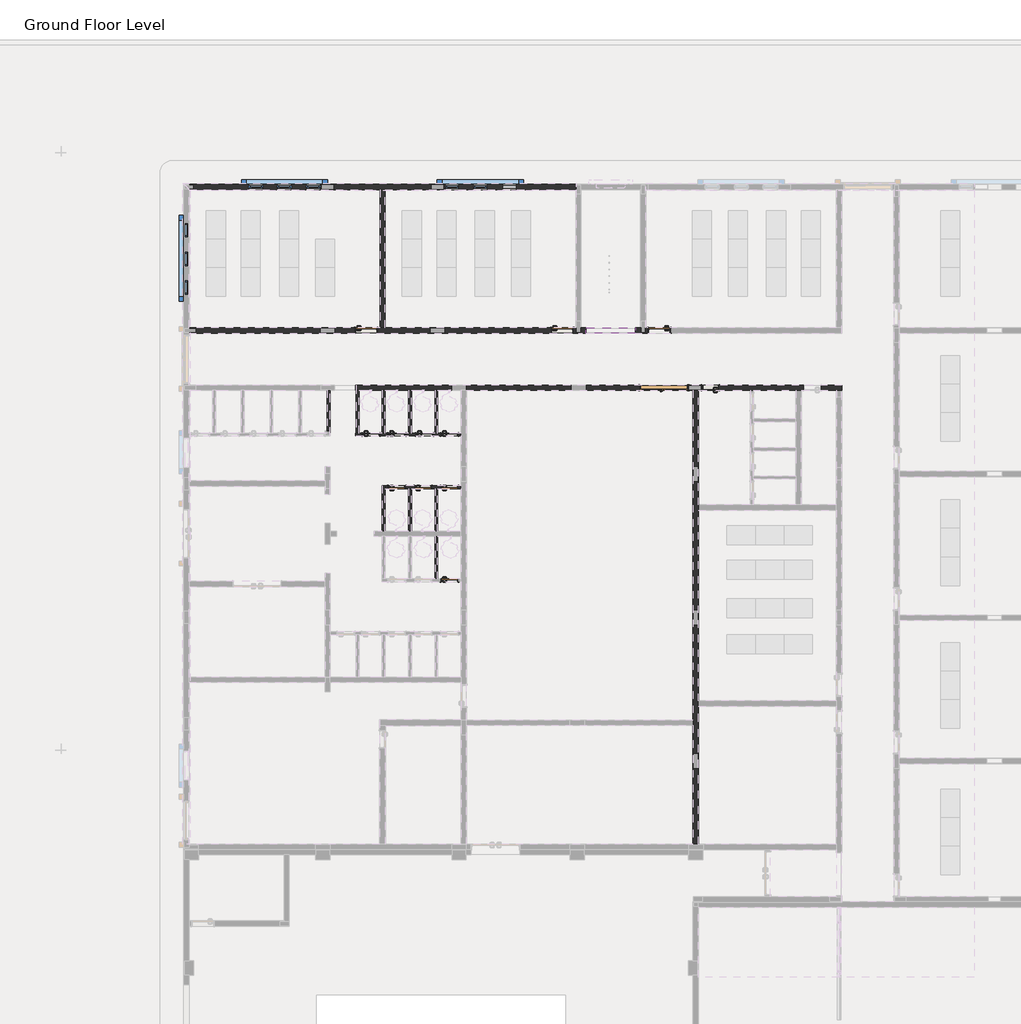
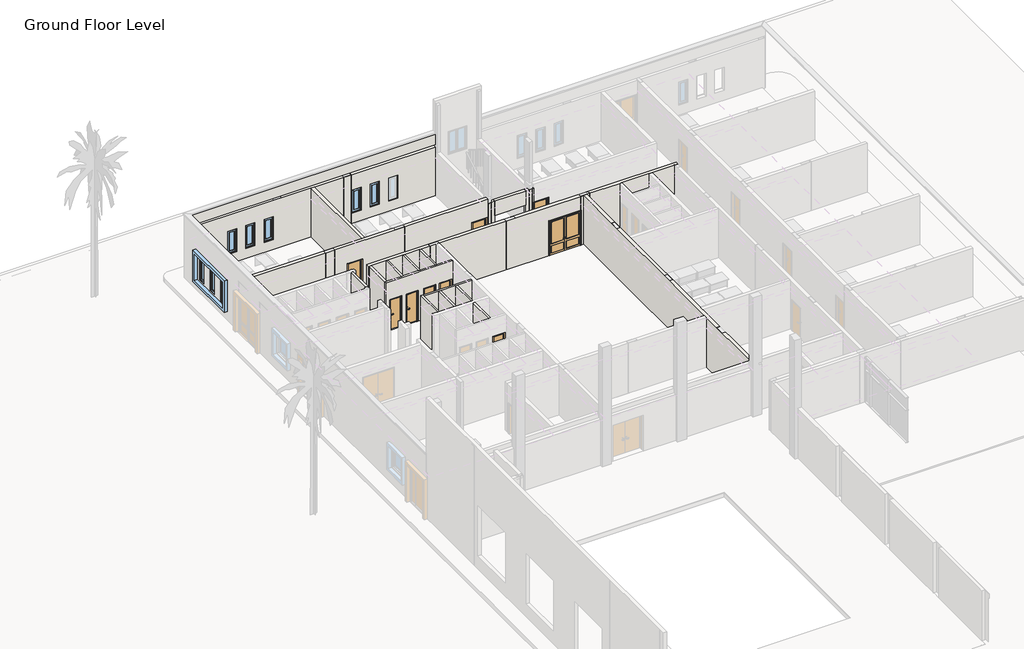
# One storey, part 8 of 23: 19 walls, 13 doors, 11 windows.
"""IFC4 building model written with IfcOpenShell, lengths in millimetres."""

from ifc_helpers import new_model, si_unit, frame, origin, place, context, project, spatial, polyline, outline, extrude, faceted_brep, transform, mapped, element, save
from components import ext_double_out_timber_2lite_nz_2000x_2500_b5d1efe6, int_single_flush_nz_700x_2100_d6161bae, int_single_flush_nz_700x_2100_f912e773, int_single_flush_nz_700x_2100_e1d28701, int_single_flush_nz_900_x_2100_021ef152, int_single_flush_nz_900_x_2100_2a598139, window_batten_type_1_9c5b8c0b, window_batten_type_1_cf321a79, window_batten_type_1_75926c5e, window_single_shutter_w3_b236610e

model = new_model("IFC4")

# Units and contexts
model_context = context("Model", 3, world=origin())
ifc_project = project(units=[si_unit("LENGTHUNIT", "METRE", prefix="MILLI")], contexts=[model_context])

# Site, building, storey
site = spatial("IfcSite", under=ifc_project)
building = spatial("IfcBuilding", under=site)
storey = spatial("IfcBuildingStorey", under=building, Name="Ground Floor Level", Elevation=900.0)

# Doors
placement = place(None, origin())
ext_double_out_timber_2lite_nz_2000x_2500_shape = ext_double_out_timber_2lite_nz_2000x_2500_b5d1efe6(model_context)
element("IfcDoor", 1, ObjectType="Ext Double Out-Timber-2Lite (NZ) : 2000x 2500", at=placement, inside=storey, context=model_context, shape_type="MappedRepresentation", body=[
    mapped(ext_double_out_timber_2lite_nz_2000x_2500_shape, transform((-2125.2327605, 13142.4858361, 900.0), x_axis=(-1.0, 0.0, 0.0), y_axis=(0.0, -1.0, 0.0), z_axis=(0.0, 0.0, 1.0))),
])
int_single_flush_nz_700x_2100_shape = int_single_flush_nz_700x_2100_d6161bae(model_context)
element("IfcDoor", 2, ObjectType="Int Single-Flush (NZ) : 700x 2100", at=placement, inside=storey, context=model_context, shape_type="MappedRepresentation", body=[
    mapped(int_single_flush_nz_700x_2100_shape, transform((-14151.2327605, 11195.2153534, 1000.0), x_axis=(1.0, 0.0, 0.0), y_axis=(0.0, 1.0, 0.0), z_axis=(0.0, 0.0, 1.0))),
])
element("IfcDoor", 3, ObjectType="Int Single-Flush (NZ) : 700x 2100", at=placement, inside=storey, context=model_context, shape_type="MappedRepresentation", body=[
    mapped(int_single_flush_nz_700x_2100_shape, transform((-13072.2327605, 11195.2153534, 1000.0), x_axis=(1.0, 0.0, 0.0), y_axis=(0.0, 1.0, 0.0), z_axis=(0.0, 0.0, 1.0))),
])
element("IfcDoor", 4, ObjectType="Int Single-Flush (NZ) : 700x 2100", at=placement, inside=storey, context=model_context, shape_type="MappedRepresentation", body=[
    mapped(int_single_flush_nz_700x_2100_shape, transform((-11911.2327605, 11195.2153534, 1000.0), x_axis=(1.0, 0.0, 0.0), y_axis=(0.0, 1.0, 0.0), z_axis=(0.0, 0.0, 1.0))),
])
element("IfcDoor", 5, ObjectType="Int Single-Flush (NZ) : 700x 2100", at=placement, inside=storey, context=model_context, shape_type="MappedRepresentation", body=[
    mapped(int_single_flush_nz_700x_2100_shape, transform((-10872.2327605, 11195.2153534, 1000.0), x_axis=(1.0, 0.0, 0.0), y_axis=(0.0, 1.0, 0.0), z_axis=(0.0, 0.0, 1.0))),
])
element("IfcDoor", 6, ObjectType="Int Single-Flush (NZ) : 700x 2100", at=placement, inside=storey, context=model_context, shape_type="MappedRepresentation", body=[
    mapped(int_single_flush_nz_700x_2100_shape, transform((-10872.2327605, 5095.2153534, 1000.0), x_axis=(1.0, 0.0, 0.0), y_axis=(0.0, 1.0, 0.0), z_axis=(0.0, 0.0, 1.0))),
])
int_single_flush_nz_700x_2100_2_shape = int_single_flush_nz_700x_2100_f912e773(model_context)
element("IfcDoor", 7, ObjectType="Int Single-Flush (NZ) : 700x 2100", at=placement, inside=storey, context=model_context, shape_type="MappedRepresentation", body=[
    mapped(int_single_flush_nz_700x_2100_2_shape, transform((-113.2327605, 13145.2153534, 1000.0), x_axis=(-1.0, 0.0, 0.0), y_axis=(0.0, -1.0, 0.0), z_axis=(0.0, 0.0, 1.0))),
])
int_single_flush_nz_700x_2100_3_shape = int_single_flush_nz_700x_2100_e1d28701(model_context)
element("IfcDoor", 8, ObjectType="Int Single-Flush (NZ) : 700x 2100", at=placement, inside=storey, context=model_context, shape_type="MappedRepresentation", body=[
    mapped(int_single_flush_nz_700x_2100_3_shape, transform((-13072.2327605, 8995.2153534, 1000.0), x_axis=(1.0, 0.0, 0.0), y_axis=(0.0, 1.0, 0.0), z_axis=(0.0, 0.0, 1.0))),
])
element("IfcDoor", 9, ObjectType="Int Single-Flush (NZ) : 700x 2100", at=placement, inside=storey, context=model_context, shape_type="MappedRepresentation", body=[
    mapped(int_single_flush_nz_700x_2100_3_shape, transform((-11972.2327605, 8995.2153534, 1000.0), x_axis=(1.0, 0.0, 0.0), y_axis=(0.0, 1.0, 0.0), z_axis=(0.0, 0.0, 1.0))),
])
element("IfcDoor", 10, ObjectType="Int Single-Flush (NZ) : 700x 2100", at=placement, inside=storey, context=model_context, shape_type="MappedRepresentation", body=[
    mapped(int_single_flush_nz_700x_2100_3_shape, transform((-10872.2327605, 8995.2153534, 1000.0), x_axis=(1.0, 0.0, 0.0), y_axis=(0.0, 1.0, 0.0), z_axis=(0.0, 0.0, 1.0))),
])
int_single_flush_nz_900_x_2100_shape = int_single_flush_nz_900_x_2100_021ef152(model_context)
element("IfcDoor", 11, ObjectType="Int Single-Flush (NZ) : 900 x 2100", at=placement, inside=storey, context=model_context, shape_type="MappedRepresentation", body=[
    mapped(int_single_flush_nz_900_x_2100_shape, transform((-14351.2327605, 15545.2153534, 1000.0), x_axis=(1.0, 0.0, 0.0), y_axis=(0.0, 1.0, 0.0), z_axis=(0.0, 0.0, 1.0))),
])
element("IfcDoor", 12, ObjectType="Int Single-Flush (NZ) : 900 x 2100", at=placement, inside=storey, context=model_context, shape_type="MappedRepresentation", body=[
    mapped(int_single_flush_nz_900_x_2100_shape, transform((-6151.2327605, 15545.2153534, 1000.0), x_axis=(1.0, 0.0, 0.0), y_axis=(0.0, 1.0, 0.0), z_axis=(0.0, 0.0, 1.0))),
])
int_single_flush_nz_900_x_2100_2_shape = int_single_flush_nz_900_x_2100_2a598139(model_context)
element("IfcDoor", 13, ObjectType="Int Single-Flush (NZ) : 900 x 2100", at=placement, inside=storey, context=model_context, shape_type="MappedRepresentation", body=[
    mapped(int_single_flush_nz_900_x_2100_2_shape, transform((-2243.2327605, 15545.2153534, 1000.0), x_axis=(-1.0, 0.0, 0.0), y_axis=(0.0, -1.0, 0.0), z_axis=(0.0, 0.0, 1.0))),
])

# Walls
element("IfcWall", 14, ObjectType="Exterior - Blockwork 200 Stairs", at=placement, inside=storey, context=model_context, shape_type="Brep", body=[
    faceted_brep([(-5657.2327605, 15435.2153534, 900.0), (-5227.2327605, 15435.2153534, 900.0), (-5227.2327605, 15435.2153534, 3100.0), (-5227.2327605, 15435.2153534, 4100.0), (-5657.2327605, 15435.2153534, 4100.0), (-5657.2327605, 15435.2153534, 1000.0), (-5657.2327605, 15655.2153534, 900.0), (-5657.2327605, 15655.2153534, 1000.0), (-5657.2327605, 15655.2153534, 4100.0), (-5647.2327605, 15655.2153534, 4100.0), (-5647.2327605, 15655.2153534, 1000.0), (-5647.2327605, 15655.2153534, 900.0), (-5447.2327605, 15655.2153534, 4100.0), (-5437.2327605, 15655.2153534, 4100.0), (-5227.2327605, 15655.2153534, 4100.0), (-5227.2327605, 15655.2153534, 3100.0), (-5227.2327605, 15655.2153534, 1000.0), (-5437.2327605, 15655.2153534, 1000.0), (-5447.2327605, 15655.2153534, 1000.0), (-5657.2327605, 15445.2153534, 900.0), (-5657.2327605, 15645.2153534, 900.0), (-5647.2327605, 15445.2153534, 900.0), (-5447.2327605, 15445.2153534, 900.0), (-5447.2327605, 15645.2153534, 900.0), (-5227.2327605, 15645.2153534, 900.0), (-5227.2327605, 15645.2153534, 1000.0), (-5447.2327605, 15445.2153534, 4100.0), (-5647.2327605, 15445.2153534, 4100.0), (-5447.2327605, 15645.2153534, 1000.0)], [[[0, 1, 2, 3, 4, 5]], [[6, 7, 8, 9, 10, 11]], [[12, 13, 14, 15, 16, 17, 18]], [[1, 0, 19, 20, 6, 11, 21, 22, 23, 24]], [[3, 2, 1, 24, 25, 16, 15, 14]], [[4, 3, 14, 13, 12, 26, 27, 9, 8]], [[22, 26, 12, 18, 28, 23]], [[22, 21, 27, 26]], [[11, 10, 9, 27, 21]], [[4, 8, 7, 6, 20, 19, 0, 5]], [[25, 28, 18, 17, 16]], [[28, 25, 24, 23]]]),
])
element("IfcWall", 15, ObjectType="Exterior - Blockwork 200 Stairs", at=placement, inside=storey, context=model_context, shape_type="SweptSolid", body=[
    extrude(outline(polyline([(-3157.2327605, 15435.2153534), (-5227.2327605, 15435.2153534), (-5227.2327605, 15655.2153534), (-3157.2327605, 15655.2153534), (-3157.2327605, 15435.2153534)])), frame((0.0, 0.0, 3100.0), z_axis=(0.0, 0.0, 1.0), x_axis=(1.0, 0.0, 0.0)), (0.0, 0.0, 1.0), 1000.0),
])
element("IfcWall", 16, ObjectType="Exterior - Blockwork 200 Stairs", at=placement, inside=storey, context=model_context, shape_type="Brep", body=[
    faceted_brep([(-3157.2327605, 15435.2153534, 900.0), (-2637.2327605, 15435.2153534, 900.0), (-2637.2327605, 15435.2153534, 1000.0), (-2637.2327605, 15435.2153534, 3119.0), (-2637.2327605, 15435.2153534, 4100.0), (-3157.2327605, 15435.2153534, 4100.0), (-3157.2327605, 15435.2153534, 3100.0), (-2637.2327605, 15655.2153534, 4100.0), (-2637.2327605, 15655.2153534, 3119.0), (-2637.2327605, 15655.2153534, 900.0), (-2737.2327605, 15655.2153534, 900.0), (-2737.2327605, 15655.2153534, 1000.0), (-2747.2327605, 15655.2153534, 1000.0), (-2747.2327605, 15655.2153534, 4100.0), (-2737.2327605, 15655.2153534, 4100.0), (-3157.2327605, 15655.2153534, 4100.0), (-2957.2327605, 15655.2153534, 4100.0), (-2947.2327605, 15655.2153534, 4100.0), (-2947.2327605, 15655.2153534, 1000.0), (-3157.2327605, 15655.2153534, 1000.0), (-3157.2327605, 15655.2153534, 3100.0), (-3157.2327605, 15645.2153534, 900.0), (-2947.2327605, 15645.2153534, 900.0), (-2947.2327605, 15445.2153534, 900.0), (-2747.2327605, 15445.2153534, 900.0), (-2747.2327605, 15645.2153534, 900.0), (-2737.2327605, 15645.2153534, 900.0), (-2637.2327605, 15645.2153534, 900.0), (-2747.2327605, 15445.2153534, 4100.0), (-2947.2327605, 15445.2153534, 4100.0), (-3157.2327605, 15645.2153534, 1000.0), (-2947.2327605, 15645.2153534, 1000.0), (-2747.2327605, 15645.2153534, 1000.0), (-2737.2327605, 15645.2153534, 1000.0)], [[[0, 1, 2, 3, 4, 5, 6]], [[7, 8, 9, 10, 11, 12, 13, 14]], [[15, 16, 17, 18, 19, 20]], [[1, 0, 21, 22, 23, 24, 25, 26, 10, 9, 27]], [[4, 3, 2, 1, 27, 9, 8, 7]], [[5, 4, 7, 14, 13, 28, 29, 17, 16, 15]], [[0, 6, 5, 15, 20, 19, 30, 21]], [[29, 23, 22, 31, 18, 17]], [[24, 28, 13, 12, 32, 25]], [[28, 24, 23, 29]], [[11, 33, 32, 12]], [[31, 30, 19, 18]], [[26, 33, 11, 10]], [[33, 26, 25, 32]], [[30, 31, 22, 21]]]),
])
element("IfcWall", 17, ObjectType="Exterior - Blockwork 200mm", at=placement, inside=storey, context=model_context, shape_type="Brep", body=[
    faceted_brep([(-5657.2327605, 21435.2153534, 5302.8002678), (-21837.2327605, 21435.2153534, 5302.8002678), (-21837.2327605, 21435.2153534, 4550.0), (-5657.2327605, 21435.2153534, 4550.0), (-5657.2327605, 21435.2153534, 4400.0), (-13637.2327605, 21435.2153534, 4400.0), (-13857.2327605, 21435.2153534, 4400.0), (-21837.2327605, 21435.2153534, 4400.0), (-21837.2327605, 21435.2153534, 1000.0), (-13857.2327605, 21435.2153534, 1000.0), (-13847.2327605, 21435.2153534, 1000.0), (-13847.2327605, 21435.2153534, 900.0), (-13647.2327605, 21435.2153534, 900.0), (-13647.2327605, 21435.2153534, 1000.0), (-13637.2327605, 21435.2153534, 1000.0), (-5657.2327605, 21435.2153534, 1000.0), (-19337.2327605, 21435.2153534, 1700.0), (-19337.2327605, 21435.2153534, 3300.0), (-18737.2327605, 21435.2153534, 3300.0), (-18737.2327605, 21435.2153534, 1700.0), (-18157.2327605, 21435.2153534, 1700.0), (-18157.2327605, 21435.2153534, 3300.0), (-17557.2327605, 21435.2153534, 3300.0), (-17557.2327605, 21435.2153534, 1700.0), (-16937.2327605, 21435.2153534, 1700.0), (-16937.2327605, 21435.2153534, 3300.0), (-16337.2327605, 21435.2153534, 3300.0), (-16337.2327605, 21435.2153534, 1700.0), (-11137.2327605, 21435.2153534, 1700.0), (-11137.2327605, 21435.2153534, 3300.0), (-10537.2327605, 21435.2153534, 3300.0), (-10537.2327605, 21435.2153534, 1700.0), (-9957.2327605, 21435.2153534, 1700.0), (-9957.2327605, 21435.2153534, 3300.0), (-9357.2327605, 21435.2153534, 3300.0), (-9357.2327605, 21435.2153534, 1700.0), (-8737.2327605, 21435.2153534, 1700.0), (-8737.2327605, 21435.2153534, 3300.0), (-8137.2327605, 21435.2153534, 3300.0), (-8137.2327605, 21435.2153534, 1700.0), (-5657.2327605, 21655.2153534, 900.0), (-21837.2327605, 21655.2153534, 900.0), (-21837.2327605, 21655.2153534, 5302.8002678), (-5657.2327605, 21655.2153534, 5302.8002678), (-19337.2327605, 21655.2153534, 3300.0), (-19337.2327605, 21655.2153534, 1700.0), (-18737.2327605, 21655.2153534, 1700.0), (-18737.2327605, 21655.2153534, 3300.0), (-18157.2327605, 21655.2153534, 3300.0), (-18157.2327605, 21655.2153534, 1700.0), (-17557.2327605, 21655.2153534, 1700.0), (-17557.2327605, 21655.2153534, 3300.0), (-16937.2327605, 21655.2153534, 3300.0), (-16937.2327605, 21655.2153534, 1700.0), (-16337.2327605, 21655.2153534, 1700.0), (-16337.2327605, 21655.2153534, 3300.0), (-11137.2327605, 21655.2153534, 3300.0), (-11137.2327605, 21655.2153534, 1700.0), (-10537.2327605, 21655.2153534, 1700.0), (-10537.2327605, 21655.2153534, 3300.0), (-9957.2327605, 21655.2153534, 3300.0), (-9957.2327605, 21655.2153534, 1700.0), (-9357.2327605, 21655.2153534, 1700.0), (-9357.2327605, 21655.2153534, 3300.0), (-8737.2327605, 21655.2153534, 3300.0), (-8737.2327605, 21655.2153534, 1700.0), (-8137.2327605, 21655.2153534, 1700.0), (-8137.2327605, 21655.2153534, 3300.0), (-21837.2327605, 21645.2153534, 900.0), (-21837.2327605, 21645.2153534, 4550.0), (-21837.2327605, 21445.2153534, 4400.0), (-21837.2327605, 21445.2153534, 1000.0), (-15797.2327605, 21645.2153534, 900.0), (-15797.2327605, 21645.2153534, 4400.0), (-11697.2327605, 21645.2153534, 4400.0), (-11697.2327605, 21645.2153534, 900.0), (-11197.2327605, 21645.2153534, 900.0), (-11197.2327605, 21645.2153534, 4400.0), (-5657.2327605, 21645.2153534, 4400.0), (-5657.2327605, 21645.2153534, 4550.0), (-21647.2327605, 21645.2153534, 900.0), (-21647.2327605, 21645.2153534, 4400.0), (-16297.2327605, 21645.2153534, 4400.0), (-16297.2327605, 21645.2153534, 900.0), (-15797.2327605, 21445.2153534, 900.0), (-15797.2327605, 21445.2153534, 1000.0), (-15797.2327605, 21445.2153534, 4400.0), (-16297.2327605, 21445.2153534, 4400.0), (-16297.2327605, 21445.2153534, 1000.0), (-16297.2327605, 21445.2153534, 900.0), (-11197.2327605, 21445.2153534, 900.0), (-11197.2327605, 21445.2153534, 1000.0), (-11197.2327605, 21445.2153534, 4400.0), (-11697.2327605, 21445.2153534, 4400.0), (-11697.2327605, 21445.2153534, 1000.0), (-11697.2327605, 21445.2153534, 900.0), (-21647.2327605, 21445.2153534, 900.0), (-21647.2327605, 21445.2153534, 1000.0), (-21647.2327605, 21445.2153534, 4400.0), (-13647.2327605, 21445.2153534, 1000.0), (-5657.2327605, 21445.2153534, 1000.0), (-13647.2327605, 21445.2153534, 900.0), (-5657.2327605, 21445.2153534, 900.0), (-13847.2327605, 21445.2153534, 1000.0), (-13847.2327605, 21445.2153534, 900.0)], [[[0, 1, 2, 3]], [[4, 5, 6, 7, 8, 9, 10, 11, 12, 13, 14, 15], [16, 17, 18, 19], [20, 21, 22, 23], [24, 25, 26, 27], [28, 29, 30, 31], [32, 33, 34, 35], [36, 37, 38, 39]], [[40, 41, 42, 43], [44, 45, 46, 47], [48, 49, 50, 51], [52, 53, 54, 55], [56, 57, 58, 59], [60, 61, 62, 63], [64, 65, 66, 67]], [[42, 41, 68, 69, 2, 1]], [[7, 70, 71, 8]], [[72, 73, 74, 75, 76, 77, 78, 79, 69, 68, 80, 81, 82, 83]], [[73, 72, 84, 85, 86]], [[87, 86, 85, 88]], [[83, 82, 87, 88, 89]], [[77, 76, 90, 91, 92]], [[93, 92, 91, 94]], [[75, 74, 93, 94, 95]], [[81, 80, 96, 97, 98]], [[70, 98, 97, 71]], [[17, 16, 45, 44]], [[18, 17, 44, 47]], [[19, 18, 47, 46]], [[16, 19, 46, 45]], [[21, 20, 49, 48]], [[22, 21, 48, 51]], [[23, 22, 51, 50]], [[20, 23, 50, 49]], [[25, 24, 53, 52]], [[26, 25, 52, 55]], [[27, 26, 55, 54]], [[24, 27, 54, 53]], [[29, 28, 57, 56]], [[30, 29, 56, 59]], [[31, 30, 59, 58]], [[28, 31, 58, 57]], [[33, 32, 61, 60]], [[34, 33, 60, 63]], [[35, 34, 63, 62]], [[32, 35, 62, 61]], [[37, 36, 65, 64]], [[38, 37, 64, 67]], [[39, 38, 67, 66]], [[36, 39, 66, 65]], [[74, 73, 86, 87, 82, 81, 98, 70, 7, 6, 5, 4, 78, 77, 92, 93]], [[69, 79, 3, 2]], [[99, 94, 91, 100, 15, 14, 13]], [[101, 99, 13, 12]], [[99, 101, 95, 94]], [[100, 91, 90, 102]], [[85, 103, 10, 9, 8, 71, 97, 88]], [[103, 104, 11, 10]], [[104, 103, 85, 84]], [[88, 97, 96, 89]], [[41, 40, 102, 90, 76, 75, 95, 101, 12, 11, 104, 84, 72, 83, 89, 96, 80, 68]], [[40, 43, 0, 3, 79, 78, 4, 15, 100, 102]], [[1, 0, 43, 42]]]),
])
element("IfcWall", 18, ObjectType="Interior - Blockwork 200", at=placement, inside=storey, context=model_context, shape_type="Brep", body=[
    faceted_brep([(-5657.2327605, 15435.2153534, 4400.0), (-21837.2327605, 15435.2153534, 4400.0), (-21837.2327605, 15435.2153534, 1000.0), (-14895.2327605, 15435.2153534, 1000.0), (-14895.2327605, 15435.2153534, 3119.0), (-13957.2327605, 15435.2153534, 3119.0), (-13957.2327605, 15435.2153534, 1000.0), (-6695.2327605, 15435.2153534, 1000.0), (-6695.2327605, 15435.2153534, 3119.0), (-5757.2327605, 15435.2153534, 3119.0), (-5757.2327605, 15435.2153534, 1000.0), (-5657.2327605, 15435.2153534, 1000.0), (-5657.2327605, 15435.2153534, 4100.0), (-21837.2327605, 15655.2153534, 4400.0), (-13857.2327605, 15655.2153534, 4400.0), (-13637.2327605, 15655.2153534, 4400.0), (-5657.2327605, 15655.2153534, 4400.0), (-5657.2327605, 15655.2153534, 4100.0), (-5657.2327605, 15655.2153534, 1000.0), (-5757.2327605, 15655.2153534, 1000.0), (-5757.2327605, 15655.2153534, 3119.0), (-6695.2327605, 15655.2153534, 3119.0), (-6695.2327605, 15655.2153534, 1000.0), (-13637.2327605, 15655.2153534, 1000.0), (-13647.2327605, 15655.2153534, 1000.0), (-13647.2327605, 15655.2153534, 900.0), (-13847.2327605, 15655.2153534, 900.0), (-13847.2327605, 15655.2153534, 1000.0), (-13857.2327605, 15655.2153534, 1000.0), (-13957.2327605, 15655.2153534, 1000.0), (-13957.2327605, 15655.2153534, 3119.0), (-14895.2327605, 15655.2153534, 3119.0), (-14895.2327605, 15655.2153534, 1000.0), (-21837.2327605, 15655.2153534, 1000.0), (-15747.2327605, 15445.2153534, 900.0), (-15747.2327605, 15645.2153534, 900.0), (-13847.2327605, 15645.2153534, 900.0), (-13647.2327605, 15645.2153534, 900.0), (-11747.2327605, 15645.2153534, 900.0), (-11747.2327605, 15445.2153534, 900.0), (-16347.2327605, 15645.2153534, 900.0), (-16347.2327605, 15445.2153534, 900.0), (-21547.2327605, 15445.2153534, 900.0), (-21547.2327605, 15645.2153534, 900.0), (-11147.2327605, 15445.2153534, 900.0), (-11147.2327605, 15645.2153534, 900.0), (-5657.2327605, 15645.2153534, 900.0), (-5657.2327605, 15445.2153534, 900.0), (-21837.2327605, 15445.2153534, 4400.0), (-21837.2327605, 15445.2153534, 1000.0), (-21837.2327605, 15645.2153534, 4400.0), (-21837.2327605, 15645.2153534, 1000.0), (-15747.2327605, 15645.2153534, 4400.0), (-16347.2327605, 15645.2153534, 4400.0), (-16347.2327605, 15645.2153534, 1000.0), (-15747.2327605, 15645.2153534, 1000.0), (-15747.2327605, 15445.2153534, 1000.0), (-15747.2327605, 15445.2153534, 4400.0), (-16347.2327605, 15445.2153534, 4400.0), (-16347.2327605, 15445.2153534, 1000.0), (-11147.2327605, 15645.2153534, 4400.0), (-11747.2327605, 15645.2153534, 4400.0), (-11747.2327605, 15645.2153534, 1000.0), (-11147.2327605, 15645.2153534, 1000.0), (-11147.2327605, 15445.2153534, 1000.0), (-11147.2327605, 15445.2153534, 4400.0), (-11747.2327605, 15445.2153534, 4400.0), (-11747.2327605, 15445.2153534, 1000.0), (-21547.2327605, 15645.2153534, 4400.0), (-21547.2327605, 15645.2153534, 1000.0), (-21547.2327605, 15445.2153534, 1000.0), (-21547.2327605, 15445.2153534, 4400.0), (-5657.2327605, 15445.2153534, 1000.0), (-5657.2327605, 15645.2153534, 1000.0), (-5757.2327605, 15445.2153534, 1000.0), (-6695.2327605, 15445.2153534, 1000.0), (-13957.2327605, 15445.2153534, 1000.0), (-14895.2327605, 15445.2153534, 1000.0), (-5757.2327605, 15645.2153534, 1000.0), (-13647.2327605, 15645.2153534, 1000.0), (-6695.2327605, 15645.2153534, 1000.0), (-14895.2327605, 15645.2153534, 1000.0), (-13847.2327605, 15645.2153534, 1000.0), (-13957.2327605, 15645.2153534, 1000.0)], [[[0, 1, 2, 3, 4, 5, 6, 7, 8, 9, 10, 11, 12]], [[13, 14, 15, 16, 17, 18, 19, 20, 21, 22, 23, 24, 25, 26, 27, 28, 29, 30, 31, 32, 33]], [[34, 35, 36, 26, 25, 37, 38, 39]], [[40, 41, 42, 43]], [[44, 45, 46, 47]], [[1, 48, 49, 2]], [[50, 13, 33, 51]], [[52, 53, 54, 55]], [[35, 34, 56, 57, 52, 55]], [[58, 57, 56, 59]], [[41, 40, 54, 53, 58, 59]], [[60, 61, 62, 63]], [[45, 44, 64, 65, 60, 63]], [[66, 65, 64, 67]], [[39, 38, 62, 61, 66, 67]], [[68, 50, 51, 69]], [[43, 42, 70, 71, 68, 69]], [[48, 71, 70, 49]], [[16, 0, 12, 11, 72, 47, 46, 73, 18, 17]], [[1, 0, 16, 15, 14, 13, 50, 68, 71, 48], [53, 52, 57, 58], [61, 60, 65, 66]], [[11, 10, 74, 72]], [[67, 64, 75, 7, 6, 76]], [[70, 59, 56, 77, 3, 2, 49]], [[44, 47, 72, 74, 75, 64]], [[34, 39, 67, 76, 77, 56]], [[59, 70, 42, 41]], [[19, 18, 73, 78]], [[62, 79, 24, 23, 22, 80, 63]], [[46, 45, 63, 80, 78, 73]], [[37, 79, 62, 38]], [[79, 37, 25, 24]], [[54, 69, 51, 33, 32, 81, 55]], [[82, 83, 29, 28, 27]], [[36, 82, 27, 26]], [[82, 36, 35, 55, 81, 83]], [[69, 54, 40, 43]], [[6, 5, 30, 29, 83, 76]], [[4, 3, 77, 81, 32, 31]], [[77, 76, 83, 81]], [[10, 9, 20, 19, 78, 74]], [[8, 7, 75, 80, 22, 21]], [[75, 74, 78, 80]], [[4, 31, 30, 5]], [[8, 21, 20, 9]]]),
])
element("IfcWall", 19, ObjectType="Interior - Blockwork 200", at=placement, inside=storey, context=model_context, shape_type="SweptSolid", body=[
    extrude(outline(polyline([(4400.0, -13637.2327605), (4400.0, -13857.2327605), (1000.0, -13857.2327605), (1000.0, -13847.2327605), (900.0, -13847.2327605), (900.0, -13647.2327605), (1000.0, -13647.2327605), (1000.0, -13637.2327605), (4400.0, -13637.2327605)])), frame((0.0, 15655.2153534, 0.0), z_axis=(0.0, 1.0, 0.0), x_axis=(0.0, 0.0, 1.0)), (0.0, 0.0, 1.0), 5780.0),
])
element("IfcWall", 20, ObjectType="Interior - Blockwork 200", at=placement, inside=storey, context=model_context, shape_type="Brep", body=[
    faceted_brep([(-14882.6782704, 13035.2153534, 4400.0), (-14882.6782704, 13035.2153534, 900.0), (-14857.2327605, 13035.2153534, 900.0), (-14737.2327605, 13035.2153534, 900.0), (-13757.2327605, 13035.2153534, 900.0), (-13637.2327605, 13035.2153534, 900.0), (-12657.2327605, 13035.2153534, 900.0), (-12537.2327605, 13035.2153534, 900.0), (-11557.2327605, 13035.2153534, 900.0), (-11437.2327605, 13035.2153534, 900.0), (-10447.2327605, 13035.2153534, 900.0), (-10247.2327605, 13035.2153534, 900.0), (-3009.2327605, 13035.2153534, 900.0), (-3009.2327605, 13035.2153534, 3400.0), (-957.2327605, 13035.2153534, 3400.0), (-957.2327605, 13035.2153534, 900.0), (-747.2327605, 13035.2153534, 900.0), (-547.2327605, 13035.2153534, 900.0), (1642.7672395, 13035.2153534, 900.0), (1762.7672395, 13035.2153534, 900.0), (3542.7672395, 13035.2153534, 900.0), (3762.7672395, 13035.2153534, 900.0), (3862.7672395, 13035.2153534, 900.0), (3862.7672395, 13035.2153534, 3019.0), (4600.7672395, 13035.2153534, 3019.0), (4600.7672395, 13035.2153534, 900.0), (5242.7672395, 13035.2153534, 900.0), (5252.7672395, 13035.2153534, 900.0), (5462.7672395, 13035.2153534, 900.0), (5462.7672395, 13035.2153534, 1000.0), (5462.7672395, 13035.2153534, 4400.0), (5452.7672395, 13035.2153534, 4400.0), (5252.7672395, 13035.2153534, 4400.0), (5242.7672395, 13035.2153534, 4400.0), (3762.7672395, 13035.2153534, 4400.0), (3542.7672395, 13035.2153534, 4400.0), (1762.7672395, 13035.2153534, 4400.0), (1642.7672395, 13035.2153534, 4400.0), (-537.2327605, 13035.2153534, 4400.0), (-757.2327605, 13035.2153534, 4400.0), (-10237.2327605, 13035.2153534, 4400.0), (-10457.2327605, 13035.2153534, 4400.0), (-11437.2327605, 13035.2153534, 4400.0), (-11557.2327605, 13035.2153534, 4400.0), (-12537.2327605, 13035.2153534, 4400.0), (-12657.2327605, 13035.2153534, 4400.0), (-13637.2327605, 13035.2153534, 4400.0), (-13757.2327605, 13035.2153534, 4400.0), (-14737.2327605, 13035.2153534, 4400.0), (-14857.2327605, 13035.2153534, 4400.0), (-407.2327605, 13035.2153534, 1000.0), (-407.2327605, 13035.2153534, 3119.0), (330.7672395, 13035.2153534, 3119.0), (330.7672395, 13035.2153534, 1000.0), (-14882.6782704, 13255.2153534, 900.0), (-14882.6782704, 13255.2153534, 4400.0), (5462.7672395, 13255.2153534, 4400.0), (5462.7672395, 13255.2153534, 900.0), (4600.7672395, 13255.2153534, 900.0), (4600.7672395, 13255.2153534, 3019.0), (3862.7672395, 13255.2153534, 3019.0), (3862.7672395, 13255.2153534, 900.0), (-957.2327605, 13255.2153534, 900.0), (-957.2327605, 13255.2153534, 3400.0), (-3009.2327605, 13255.2153534, 3400.0), (-3009.2327605, 13255.2153534, 900.0), (-407.2327605, 13255.2153534, 3119.0), (-407.2327605, 13255.2153534, 1000.0), (330.7672395, 13255.2153534, 1000.0), (330.7672395, 13255.2153534, 3119.0), (-5847.2327605, 13045.2153534, 900.0), (-5247.2327605, 13045.2153534, 900.0), (-5247.2327605, 13245.2153534, 900.0), (-5847.2327605, 13245.2153534, 900.0), (-10847.2327605, 13045.2153534, 900.0), (-10247.2327605, 13045.2153534, 900.0), (-10247.2327605, 13245.2153534, 900.0), (-10847.2327605, 13245.2153534, 900.0), (-947.2327605, 13045.2153534, 900.0), (-347.2327605, 13045.2153534, 900.0), (-347.2327605, 13245.2153534, 900.0), (-947.2327605, 13245.2153534, 900.0), (-347.2327605, 13045.2153534, 4400.0), (-947.2327605, 13045.2153534, 4400.0), (-947.2327605, 13245.2153534, 4400.0), (-347.2327605, 13245.2153534, 4400.0), (-5247.2327605, 13045.2153534, 4400.0), (-5847.2327605, 13045.2153534, 4400.0), (-5847.2327605, 13245.2153534, 4400.0), (-5247.2327605, 13245.2153534, 4400.0), (-10247.2327605, 13045.2153534, 4400.0), (-10847.2327605, 13045.2153534, 4400.0), (-10847.2327605, 13245.2153534, 4400.0), (-10247.2327605, 13245.2153534, 4400.0), (-347.2327605, 13045.2153534, 3119.0), (-407.2327605, 13045.2153534, 3119.0), (-407.2327605, 13045.2153534, 1000.0), (-347.2327605, 13045.2153534, 1000.0), (-347.2327605, 13245.2153534, 1000.0), (-407.2327605, 13245.2153534, 1000.0), (-407.2327605, 13245.2153534, 3119.0), (-347.2327605, 13245.2153534, 3119.0)], [[[0, 1, 2, 3, 4, 5, 6, 7, 8, 9, 10, 11, 12, 13, 14, 15, 16, 17, 18, 19, 20, 21, 22, 23, 24, 25, 26, 27, 28, 29, 30, 31, 32, 33, 34, 35, 36, 37, 38, 39, 40, 41, 42, 43, 44, 45, 46, 47, 48, 49], [50, 51, 52, 53]], [[54, 55, 56, 57, 58, 59, 60, 61, 62, 63, 64, 65], [66, 67, 68, 69]], [[1, 54, 65, 12, 11, 10, 9, 8, 7, 6, 5, 4, 3, 2], [70, 71, 72, 73], [74, 75, 76, 77]], [[57, 28, 27, 26, 25, 58]], [[15, 62, 61, 22, 21, 20, 19, 18, 17, 16], [78, 79, 80, 81]], [[1, 0, 55, 54]], [[30, 29, 28, 57, 56]], [[0, 49, 48, 47, 46, 45, 44, 43, 42, 41, 40, 39, 38, 37, 36, 35, 34, 33, 32, 31, 30, 56, 55], [82, 83, 84, 85], [86, 87, 88, 89], [90, 91, 92, 93]], [[13, 12, 65, 64]], [[15, 14, 63, 62]], [[78, 83, 82, 94, 95, 96, 97, 79]], [[83, 78, 81, 84]], [[84, 81, 80, 98, 99, 100, 101, 85]], [[98, 80, 79, 97]], [[82, 85, 101, 94]], [[70, 87, 86, 71]], [[87, 70, 73, 88]], [[88, 73, 72, 89]], [[89, 72, 71, 86]], [[74, 91, 90, 75]], [[91, 74, 77, 92]], [[92, 77, 76, 93]], [[93, 76, 75, 90]], [[51, 50, 96, 95]], [[67, 66, 100, 99]], [[68, 53, 52, 69]], [[53, 68, 67, 99, 98, 97, 96, 50]], [[63, 14, 13, 64]], [[69, 52, 51, 95, 94, 101, 100, 66]], [[60, 23, 22, 61]], [[23, 60, 59, 24]], [[24, 59, 58, 25]]]),
])
element("IfcWall", 21, ObjectType="Interior - Blockwork 200", at=placement, inside=storey, context=model_context, shape_type="Brep", body=[
    faceted_brep([(-757.2327605, -5944.7846466, 4400.0), (-757.2327605, -964.7846466, 4400.0), (-757.2327605, -744.7846466, 4400.0), (-757.2327605, 13035.2153534, 4400.0), (-757.2327605, 13035.2153534, 1000.0), (-757.2327605, -744.7846466, 1000.0), (-757.2327605, -754.7846466, 1000.0), (-757.2327605, -754.7846466, 900.0), (-757.2327605, -954.7846466, 900.0), (-757.2327605, -954.7846466, 910.0), (-757.2327605, -964.7846466, 910.0), (-757.2327605, -5944.7846466, 910.0), (-537.2327605, 13035.2153534, 4400.0), (-537.2327605, 8255.2153534, 4400.0), (-537.2327605, 8035.2153534, 4400.0), (-537.2327605, 55.2153534, 4400.0), (-537.2327605, -164.7846466, 4400.0), (-537.2327605, -5944.7846466, 4400.0), (-537.2327605, -5944.7846466, 4100.0), (-537.2327605, -5944.7846466, 1000.0), (-537.2327605, -164.7846466, 1000.0), (-537.2327605, -154.7846466, 1000.0), (-537.2327605, -154.7846466, 900.0), (-537.2327605, 45.2153534, 900.0), (-537.2327605, 45.2153534, 1000.0), (-537.2327605, 55.2153534, 1000.0), (-537.2327605, 8035.2153534, 1000.0), (-537.2327605, 8045.2153534, 1000.0), (-537.2327605, 8045.2153534, 900.0), (-537.2327605, 8245.2153534, 900.0), (-537.2327605, 8245.2153534, 1000.0), (-537.2327605, 8255.2153534, 1000.0), (-537.2327605, 13035.2153534, 1000.0), (-747.2327605, -2754.7846466, 900.0), (-547.2327605, -2754.7846466, 900.0), (-547.2327605, -5944.7846466, 900.0), (-747.2327605, -5944.7846466, 900.0), (-547.2327605, -2154.7846466, 900.0), (-747.2327605, -2154.7846466, 900.0), (-747.2327605, -954.7846466, 900.0), (-747.2327605, -754.7846466, 900.0), (-747.2327605, 3245.2153534, 900.0), (-547.2327605, 3245.2153534, 900.0), (-547.2327605, 45.2153534, 900.0), (-547.2327605, -154.7846466, 900.0), (-547.2327605, 3845.2153534, 900.0), (-747.2327605, 3845.2153534, 900.0), (-747.2327605, 9245.2153534, 900.0), (-547.2327605, 9245.2153534, 900.0), (-547.2327605, 8245.2153534, 900.0), (-547.2327605, 8045.2153534, 900.0), (-547.2327605, 9845.2153534, 900.0), (-747.2327605, 9845.2153534, 900.0), (-747.2327605, 13035.2153534, 900.0), (-547.2327605, 13035.2153534, 900.0), (-547.2327605, 13035.2153534, 1000.0), (-747.2327605, 13035.2153534, 1000.0), (-747.2327605, -2154.7846466, 4400.0), (-747.2327605, -2754.7846466, 4400.0), (-747.2327605, -2754.7846466, 910.0), (-747.2327605, -2154.7846466, 910.0), (-547.2327605, -2154.7846466, 1000.0), (-547.2327605, -2154.7846466, 4400.0), (-547.2327605, -2754.7846466, 4400.0), (-547.2327605, -2754.7846466, 1000.0), (-747.2327605, 3845.2153534, 4400.0), (-747.2327605, 3245.2153534, 4400.0), (-747.2327605, 3245.2153534, 1000.0), (-747.2327605, 3845.2153534, 1000.0), (-547.2327605, 3845.2153534, 1000.0), (-547.2327605, 3845.2153534, 4400.0), (-547.2327605, 3245.2153534, 4400.0), (-547.2327605, 3245.2153534, 1000.0), (-747.2327605, 9845.2153534, 4400.0), (-747.2327605, 9245.2153534, 4400.0), (-747.2327605, 9245.2153534, 1000.0), (-747.2327605, 9845.2153534, 1000.0), (-547.2327605, 9845.2153534, 1000.0), (-547.2327605, 9845.2153534, 4400.0), (-547.2327605, 9245.2153534, 4400.0), (-547.2327605, 9245.2153534, 1000.0), (-747.2327605, -5944.7846466, 4400.0), (-547.2327605, 8245.2153534, 1000.0), (-547.2327605, 8045.2153534, 1000.0), (-547.2327605, 45.2153534, 1000.0), (-547.2327605, -154.7846466, 1000.0), (-547.2327605, -5944.7846466, 1000.0), (-747.2327605, -754.7846466, 1000.0), (-747.2327605, -954.7846466, 910.0), (-747.2327605, -5944.7846466, 910.0)], [[[0, 1, 2, 3, 4, 5, 6, 7, 8, 9, 10, 11]], [[12, 13, 14, 15, 16, 17, 18, 19, 20, 21, 22, 23, 24, 25, 26, 27, 28, 29, 30, 31, 32]], [[33, 34, 35, 36]], [[37, 38, 39, 8, 7, 40, 41, 42, 43, 23, 22, 44]], [[45, 46, 47, 48, 49, 29, 28, 50]], [[51, 52, 53, 54]], [[3, 12, 32, 55, 54, 53, 56, 4]], [[57, 58, 59, 60]], [[38, 37, 61, 62, 57, 60]], [[63, 62, 61, 64]], [[34, 33, 59, 58, 63, 64]], [[65, 66, 67, 68]], [[46, 45, 69, 70, 65, 68]], [[71, 70, 69, 72]], [[42, 41, 67, 66, 71, 72]], [[73, 74, 75, 76]], [[52, 51, 77, 78, 73, 76]], [[79, 78, 77, 80]], [[48, 47, 75, 74, 79, 80]], [[3, 2, 1, 0, 81, 17, 16, 15, 14, 13, 12], [58, 57, 62, 63], [66, 65, 70, 71], [74, 73, 78, 79]], [[82, 80, 77, 55, 32, 31, 30]], [[49, 82, 30, 29]], [[82, 49, 48, 80]], [[55, 77, 51, 54]], [[69, 83, 27, 26, 25, 24, 84, 72]], [[43, 84, 24, 23]], [[84, 43, 42, 72]], [[50, 83, 69, 45]], [[83, 50, 28, 27]], [[61, 85, 21, 20, 19, 86, 64]], [[85, 44, 22, 21]], [[44, 85, 61, 37]], [[64, 86, 35, 34]], [[67, 87, 6, 5, 4, 56, 76, 75, 68]], [[68, 75, 47, 46]], [[76, 56, 53, 52]], [[40, 87, 67, 41]], [[87, 40, 7, 6]], [[88, 60, 59, 89, 11, 10, 9]], [[39, 88, 9, 8]], [[88, 39, 38, 60]], [[89, 59, 33, 36]], [[17, 81, 0, 11, 89, 36, 35, 86, 19, 18]]]),
])
element("IfcWall", 22, ObjectType="Interior -Blockwork 100mm", at=placement, inside=storey, context=model_context, shape_type="SweptSolid", body=[
    extrude(outline(polyline([(-11437.2327605, 6935.2153534), (-11437.2327605, 5155.2153534), (-11557.2327605, 5155.2153534), (-11557.2327605, 6935.2153534), (-11437.2327605, 6935.2153534)])), frame((0.0, 0.0, 900.0), z_axis=(0.0, 0.0, 1.0), x_axis=(1.0, 0.0, 0.0)), (0.0, 0.0, 1.0), 3500.0),
])
element("IfcWall", 23, ObjectType="Interior -Blockwork 100mm", at=placement, inside=storey, context=model_context, shape_type="Brep", body=[
    faceted_brep([(-13637.2327605, 7155.2153534, 900.0), (-13637.2327605, 8935.2153534, 900.0), (-13637.2327605, 9055.2153534, 900.0), (-13637.2327605, 9055.2153534, 4400.0), (-13637.2327605, 8935.2153534, 4400.0), (-13637.2327605, 7155.2153534, 4400.0), (-13757.2327605, 7155.2153534, 900.0), (-13757.2327605, 7155.2153534, 4400.0), (-13757.2327605, 9055.2153534, 4400.0), (-13757.2327605, 9055.2153534, 900.0)], [[[0, 1, 2, 3, 4, 5]], [[6, 7, 8, 9]], [[2, 1, 0, 6, 9]], [[0, 5, 7, 6]], [[3, 2, 9, 8]], [[5, 4, 3, 8, 7]]]),
])
element("IfcWall", 24, ObjectType="Interior -Blockwork 100mm", at=placement, inside=storey, context=model_context, shape_type="Brep", body=[
    faceted_brep([(-13637.2327605, 8935.2153534, 900.0), (-12657.2327605, 8935.2153534, 900.0), (-12537.2327605, 8935.2153534, 900.0), (-11557.2327605, 8935.2153534, 900.0), (-11437.2327605, 8935.2153534, 900.0), (-10457.2327605, 8935.2153534, 900.0), (-10457.2327605, 8935.2153534, 4400.0), (-11437.2327605, 8935.2153534, 4400.0), (-11557.2327605, 8935.2153534, 4400.0), (-12537.2327605, 8935.2153534, 4400.0), (-12657.2327605, 8935.2153534, 4400.0), (-13637.2327605, 8935.2153534, 4400.0), (-12778.2327605, 8935.2153534, 3119.0), (-12778.2327605, 8935.2153534, 1000.0), (-13516.2327605, 8935.2153534, 1000.0), (-13516.2327605, 8935.2153534, 3119.0), (-11678.2327605, 8935.2153534, 3119.0), (-11678.2327605, 8935.2153534, 1000.0), (-12416.2327605, 8935.2153534, 1000.0), (-12416.2327605, 8935.2153534, 3119.0), (-10578.2327605, 8935.2153534, 3119.0), (-10578.2327605, 8935.2153534, 1000.0), (-11316.2327605, 8935.2153534, 1000.0), (-11316.2327605, 8935.2153534, 3119.0), (-10457.2327605, 9055.2153534, 900.0), (-13637.2327605, 9055.2153534, 900.0), (-13637.2327605, 9055.2153534, 4400.0), (-10457.2327605, 9055.2153534, 4400.0), (-12778.2327605, 9055.2153534, 1000.0), (-12778.2327605, 9055.2153534, 3119.0), (-13516.2327605, 9055.2153534, 3119.0), (-13516.2327605, 9055.2153534, 1000.0), (-11678.2327605, 9055.2153534, 1000.0), (-11678.2327605, 9055.2153534, 3119.0), (-12416.2327605, 9055.2153534, 3119.0), (-12416.2327605, 9055.2153534, 1000.0), (-10578.2327605, 9055.2153534, 1000.0), (-10578.2327605, 9055.2153534, 3119.0), (-11316.2327605, 9055.2153534, 3119.0), (-11316.2327605, 9055.2153534, 1000.0)], [[[0, 1, 2, 3, 4, 5, 6, 7, 8, 9, 10, 11], [12, 13, 14, 15], [16, 17, 18, 19], [20, 21, 22, 23]], [[24, 25, 26, 27], [28, 29, 30, 31], [32, 33, 34, 35], [36, 37, 38, 39]], [[5, 4, 3, 2, 1, 0, 25, 24]], [[0, 11, 26, 25]], [[6, 5, 24, 27]], [[11, 10, 9, 8, 7, 6, 27, 26]], [[28, 13, 12, 29]], [[29, 12, 15, 30]], [[14, 31, 30, 15]], [[13, 28, 31, 14]], [[32, 17, 16, 33]], [[33, 16, 19, 34]], [[18, 35, 34, 19]], [[17, 32, 35, 18]], [[36, 21, 20, 37]], [[37, 20, 23, 38]], [[38, 23, 22, 39]], [[21, 36, 39, 22]]]),
])
element("IfcWall", 25, ObjectType="Interior -Blockwork 100mm", at=placement, inside=storey, context=model_context, shape_type="SweptSolid", body=[
    extrude(outline(polyline([(-12537.2327605, 8935.2153534), (-12537.2327605, 7155.2153534), (-12657.2327605, 7155.2153534), (-12657.2327605, 8935.2153534), (-12537.2327605, 8935.2153534)])), frame((0.0, 0.0, 900.0), z_axis=(0.0, 0.0, 1.0), x_axis=(1.0, 0.0, 0.0)), (0.0, 0.0, 1.0), 3500.0),
])
element("IfcWall", 26, ObjectType="Interior -Blockwork 100mm", at=placement, inside=storey, context=model_context, shape_type="SweptSolid", body=[
    extrude(outline(polyline([(-11437.2327605, 8935.2153534), (-11437.2327605, 7155.2153534), (-11557.2327605, 7155.2153534), (-11557.2327605, 8935.2153534), (-11437.2327605, 8935.2153534)])), frame((0.0, 0.0, 900.0), z_axis=(0.0, 0.0, 1.0), x_axis=(1.0, 0.0, 0.0)), (0.0, 0.0, 1.0), 3500.0),
])
element("IfcWall", 27, ObjectType="Interior -Blockwork 100mm", at=placement, inside=storey, context=model_context, shape_type="Brep", body=[
    faceted_brep([(-14882.6782704, 11135.2153534, 900.0), (-10457.2327605, 11135.2153534, 900.0), (-10457.2327605, 11135.2153534, 4400.0), (-14882.6782704, 11135.2153534, 4400.0), (-13857.2327605, 11135.2153534, 3119.0), (-13857.2327605, 11135.2153534, 1000.0), (-14595.2327605, 11135.2153534, 1000.0), (-14595.2327605, 11135.2153534, 3119.0), (-12778.2327605, 11135.2153534, 3119.0), (-12778.2327605, 11135.2153534, 1000.0), (-13516.2327605, 11135.2153534, 1000.0), (-13516.2327605, 11135.2153534, 3119.0), (-11617.2327605, 11135.2153534, 3119.0), (-11617.2327605, 11135.2153534, 1000.0), (-12355.2327605, 11135.2153534, 1000.0), (-12355.2327605, 11135.2153534, 3119.0), (-10578.2327605, 11135.2153534, 3119.0), (-10578.2327605, 11135.2153534, 1000.0), (-11316.2327605, 11135.2153534, 1000.0), (-11316.2327605, 11135.2153534, 3119.0), (-10457.2327605, 11255.2153534, 900.0), (-11437.2327605, 11255.2153534, 900.0), (-11557.2327605, 11255.2153534, 900.0), (-12537.2327605, 11255.2153534, 900.0), (-12657.2327605, 11255.2153534, 900.0), (-13637.2327605, 11255.2153534, 900.0), (-13757.2327605, 11255.2153534, 900.0), (-14737.2327605, 11255.2153534, 900.0), (-14857.2327605, 11255.2153534, 900.0), (-14882.6782704, 11255.2153534, 900.0), (-14882.6782704, 11255.2153534, 4400.0), (-14857.2327605, 11255.2153534, 4400.0), (-14737.2327605, 11255.2153534, 4400.0), (-13757.2327605, 11255.2153534, 4400.0), (-13637.2327605, 11255.2153534, 4400.0), (-12657.2327605, 11255.2153534, 4400.0), (-12537.2327605, 11255.2153534, 4400.0), (-11557.2327605, 11255.2153534, 4400.0), (-11437.2327605, 11255.2153534, 4400.0), (-10457.2327605, 11255.2153534, 4400.0), (-13857.2327605, 11255.2153534, 1000.0), (-13857.2327605, 11255.2153534, 3119.0), (-14595.2327605, 11255.2153534, 3119.0), (-14595.2327605, 11255.2153534, 1000.0), (-12778.2327605, 11255.2153534, 1000.0), (-12778.2327605, 11255.2153534, 3119.0), (-13516.2327605, 11255.2153534, 3119.0), (-13516.2327605, 11255.2153534, 1000.0), (-11617.2327605, 11255.2153534, 1000.0), (-11617.2327605, 11255.2153534, 3119.0), (-12355.2327605, 11255.2153534, 3119.0), (-12355.2327605, 11255.2153534, 1000.0), (-10578.2327605, 11255.2153534, 1000.0), (-10578.2327605, 11255.2153534, 3119.0), (-11316.2327605, 11255.2153534, 3119.0), (-11316.2327605, 11255.2153534, 1000.0)], [[[0, 1, 2, 3], [4, 5, 6, 7], [8, 9, 10, 11], [12, 13, 14, 15], [16, 17, 18, 19]], [[20, 21, 22, 23, 24, 25, 26, 27, 28, 29, 30, 31, 32, 33, 34, 35, 36, 37, 38, 39], [40, 41, 42, 43], [44, 45, 46, 47], [48, 49, 50, 51], [52, 53, 54, 55]], [[1, 0, 29, 28, 27, 26, 25, 24, 23, 22, 21, 20]], [[0, 3, 30, 29]], [[2, 1, 20, 39]], [[3, 2, 39, 38, 37, 36, 35, 34, 33, 32, 31, 30]], [[40, 5, 4, 41]], [[41, 4, 7, 42]], [[6, 43, 42, 7]], [[5, 40, 43, 6]], [[44, 9, 8, 45]], [[45, 8, 11, 46]], [[10, 47, 46, 11]], [[9, 44, 47, 10]], [[48, 13, 12, 49]], [[49, 12, 15, 50]], [[14, 51, 50, 15]], [[13, 48, 51, 14]], [[52, 17, 16, 53]], [[53, 16, 19, 54]], [[54, 19, 18, 55]], [[17, 52, 55, 18]]]),
])
element("IfcWall", 28, ObjectType="Interior -Blockwork 100mm", at=placement, inside=storey, context=model_context, shape_type="SweptSolid", body=[
    extrude(outline(polyline([(-11437.2327605, 13035.2153534), (-11437.2327605, 11255.2153534), (-11557.2327605, 11255.2153534), (-11557.2327605, 13035.2153534), (-11437.2327605, 13035.2153534)])), frame((0.0, 0.0, 900.0), z_axis=(0.0, 0.0, 1.0), x_axis=(1.0, 0.0, 0.0)), (0.0, 0.0, 1.0), 3500.0),
])
element("IfcWall", 29, ObjectType="Interior -Blockwork 100mm", at=placement, inside=storey, context=model_context, shape_type="SweptSolid", body=[
    extrude(outline(polyline([(-12537.2327605, 13035.2153534), (-12537.2327605, 11255.2153534), (-12657.2327605, 11255.2153534), (-12657.2327605, 13035.2153534), (-12537.2327605, 13035.2153534)])), frame((0.0, 0.0, 900.0), z_axis=(0.0, 0.0, 1.0), x_axis=(1.0, 0.0, 0.0)), (0.0, 0.0, 1.0), 3500.0),
])
element("IfcWall", 30, ObjectType="Interior -Blockwork 100mm", at=placement, inside=storey, context=model_context, shape_type="SweptSolid", body=[
    extrude(outline(polyline([(-13637.2327605, 13035.2153534), (-13637.2327605, 11255.2153534), (-13757.2327605, 11255.2153534), (-13757.2327605, 13035.2153534), (-13637.2327605, 13035.2153534)])), frame((0.0, 0.0, 900.0), z_axis=(0.0, 0.0, 1.0), x_axis=(1.0, 0.0, 0.0)), (0.0, 0.0, 1.0), 3500.0),
])
element("IfcWall", 31, ObjectType="Interior -Blockwork 100mm", at=placement, inside=storey, context=model_context, shape_type="SweptSolid", body=[
    extrude(outline(polyline([(-14737.2327605, 13035.2153534), (-14737.2327605, 11255.2153534), (-14857.2327605, 11255.2153534), (-14857.2327605, 13035.2153534), (-14737.2327605, 13035.2153534)])), frame((0.0, 0.0, 900.0), z_axis=(0.0, 0.0, 1.0), x_axis=(1.0, 0.0, 0.0)), (0.0, 0.0, 1.0), 3500.0),
])
element("IfcWall", 32, ObjectType="Interior -Blockwork 100mm", at=placement, inside=storey, context=model_context, shape_type="SweptSolid", body=[
    extrude(outline(polyline([(-15937.2327605, 13035.2153534), (-15937.2327605, 11255.2153534), (-15947.2327605, 11255.2153534), (-15947.2327605, 11345.2153534), (-16057.2327605, 11345.2153534), (-16057.2327605, 13035.2153534), (-15937.2327605, 13035.2153534)])), frame((0.0, 0.0, 900.0), z_axis=(0.0, 0.0, 1.0), x_axis=(1.0, 0.0, 0.0)), (0.0, 0.0, 1.0), 3500.0),
])

# Windows
window_batten_type_1_shape = window_batten_type_1_9c5b8c0b(model_context)
element("IfcWindow", 33, ObjectType="Window Batten : Type 1", at=placement, inside=storey, context=model_context, shape_type="MappedRepresentation", body=[
    mapped(window_batten_type_1_shape, transform((-21947.2327605, 18682.2321868, 991.1515798), x_axis=(0.0, -1.0, 0.0), y_axis=(1.0, 0.0, 0.0), z_axis=(0.0, 0.0, 1.0))),
])
window_batten_type_1_2_shape = window_batten_type_1_cf321a79(model_context)
element("IfcWindow", 34, ObjectType="Window Batten : Type 1", at=placement, inside=storey, context=model_context, shape_type="MappedRepresentation", body=[
    mapped(window_batten_type_1_2_shape, transform((-9525.9313263, 21545.2153534, 890.4209743), x_axis=(-1.0, 0.0, 0.0), y_axis=(0.0, -1.0, 0.0), z_axis=(0.0, 0.0, 1.0))),
])
window_batten_type_1_3_shape = window_batten_type_1_75926c5e(model_context)
element("IfcWindow", 35, ObjectType="Window Batten : Type 1", at=placement, inside=storey, context=model_context, shape_type="MappedRepresentation", body=[
    mapped(window_batten_type_1_3_shape, transform((-17723.0827737, 21545.2153534, 890.5040542), x_axis=(-1.0, 0.0, 0.0), y_axis=(0.0, -1.0, 0.0), z_axis=(0.0, 0.0, 1.0))),
])
window_single_shutter_w3_shape = window_single_shutter_w3_b236610e(model_context)
element("IfcWindow", 36, ObjectType="Window- Single Shutter : W3", at=placement, inside=storey, context=model_context, shape_type="MappedRepresentation", body=[
    mapped(window_single_shutter_w3_shape, transform((-21942.2327605, 19735.2153534, 900.0), x_axis=(0.0, 1.0, 0.0), y_axis=(-1.0, 0.0, 0.0), z_axis=(0.0, 0.0, 1.0))),
])
element("IfcWindow", 37, ObjectType="Window- Single Shutter : W3", at=placement, inside=storey, context=model_context, shape_type="MappedRepresentation", body=[
    mapped(window_single_shutter_w3_shape, transform((-21942.2327605, 18535.2153534, 900.0), x_axis=(0.0, 1.0, 0.0), y_axis=(-1.0, 0.0, 0.0), z_axis=(0.0, 0.0, 1.0))),
])
element("IfcWindow", 38, ObjectType="Window- Single Shutter : W3", at=placement, inside=storey, context=model_context, shape_type="MappedRepresentation", body=[
    mapped(window_single_shutter_w3_shape, transform((-21942.2327605, 17335.2153534, 900.0), x_axis=(0.0, 1.0, 0.0), y_axis=(-1.0, 0.0, 0.0), z_axis=(0.0, 0.0, 1.0))),
])
element("IfcWindow", 39, ObjectType="Window- Single Shutter : W3", at=placement, inside=storey, context=model_context, shape_type="MappedRepresentation", body=[
    mapped(window_single_shutter_w3_shape, transform((-19037.2327605, 21540.2153534, 900.0), x_axis=(1.0, 0.0, 0.0), y_axis=(0.0, 1.0, 0.0), z_axis=(0.0, 0.0, 1.0))),
])
element("IfcWindow", 40, ObjectType="Window- Single Shutter : W3", at=placement, inside=storey, context=model_context, shape_type="MappedRepresentation", body=[
    mapped(window_single_shutter_w3_shape, transform((-17857.2327605, 21540.2153534, 900.0), x_axis=(1.0, 0.0, 0.0), y_axis=(0.0, 1.0, 0.0), z_axis=(0.0, 0.0, 1.0))),
])
element("IfcWindow", 41, ObjectType="Window- Single Shutter : W3", at=placement, inside=storey, context=model_context, shape_type="MappedRepresentation", body=[
    mapped(window_single_shutter_w3_shape, transform((-16637.2327605, 21540.2153534, 900.0), x_axis=(1.0, 0.0, 0.0), y_axis=(0.0, 1.0, 0.0), z_axis=(0.0, 0.0, 1.0))),
])
element("IfcWindow", 42, ObjectType="Window- Single Shutter : W3", at=placement, inside=storey, context=model_context, shape_type="MappedRepresentation", body=[
    mapped(window_single_shutter_w3_shape, transform((-10837.2327605, 21540.2153534, 900.0), x_axis=(1.0, 0.0, 0.0), y_axis=(0.0, 1.0, 0.0), z_axis=(0.0, 0.0, 1.0))),
])
element("IfcWindow", 43, ObjectType="Window- Single Shutter : W3", at=placement, inside=storey, context=model_context, shape_type="MappedRepresentation", body=[
    mapped(window_single_shutter_w3_shape, transform((-9657.2327605, 21540.2153534, 900.0), x_axis=(1.0, 0.0, 0.0), y_axis=(0.0, 1.0, 0.0), z_axis=(0.0, 0.0, 1.0))),
])

save(model, "model.ifc")
